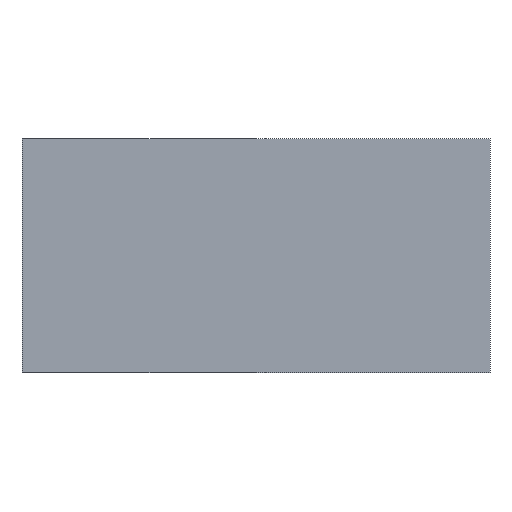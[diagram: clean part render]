
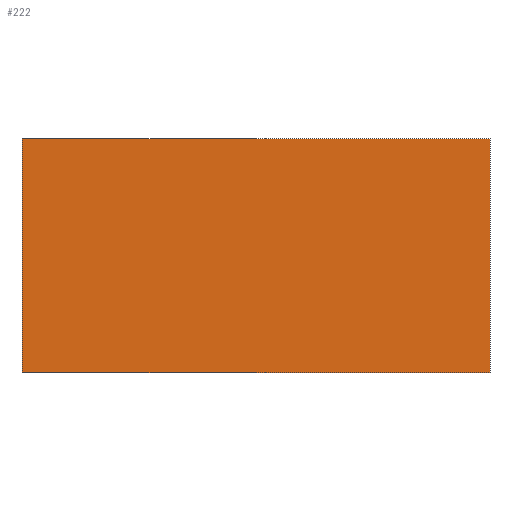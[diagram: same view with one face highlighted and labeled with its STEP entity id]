
A CAD part, front view. The second image highlights one B-rep face of the part: STEP entity #222.
In plain terms, the highlighted planar face has unit normal (0, -1, 0).
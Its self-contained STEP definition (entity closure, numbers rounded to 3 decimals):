
#8 = DIRECTION ( 'NONE',  ( 0., 0., 1. ) ) ;
#12 = VECTOR ( 'NONE', #220, 1000. ) ;
#24 = EDGE_CURVE ( 'NONE', #156, #46, #200, .T. ) ;
#32 = LINE ( 'NONE', #129, #12 ) ;
#34 = DIRECTION ( 'NONE',  ( 0., 1., 0. ) ) ;
#42 = VERTEX_POINT ( 'NONE', #161 ) ;
#46 = VERTEX_POINT ( 'NONE', #109 ) ;
#53 = CARTESIAN_POINT ( 'NONE',  ( 0., 0., 0. ) ) ;
#71 = PLANE ( 'NONE',  #193 ) ;
#83 = DIRECTION ( 'NONE',  ( 1., 0., 0. ) ) ;
#98 = VERTEX_POINT ( 'NONE', #158 ) ;
#103 = ORIENTED_EDGE ( 'NONE', *, *, #150, .F. ) ;
#105 = LINE ( 'NONE', #177, #139 ) ;
#109 = CARTESIAN_POINT ( 'NONE',  ( -41.983, 0., -7.155 ) ) ;
#111 = DIRECTION ( 'NONE',  ( 0., 0., 1. ) ) ;
#114 = EDGE_CURVE ( 'NONE', #46, #98, #105, .T. ) ;
#119 = ORIENTED_EDGE ( 'NONE', *, *, #24, .F. ) ;
#128 = DIRECTION ( 'NONE',  ( 0., 0., -1. ) ) ;
#129 = CARTESIAN_POINT ( 'NONE',  ( -41.983, 0., -17.155 ) ) ;
#131 = VECTOR ( 'NONE', #8, 1000. ) ;
#139 = VECTOR ( 'NONE', #83, 1000. ) ;
#147 = FACE_OUTER_BOUND ( 'NONE', #231, .T. ) ;
#150 = EDGE_CURVE ( 'NONE', #98, #42, #182, .T. ) ;
#154 = CARTESIAN_POINT ( 'NONE',  ( -41.983, 0., -17.155 ) ) ;
#156 = VERTEX_POINT ( 'NONE', #233 ) ;
#158 = CARTESIAN_POINT ( 'NONE',  ( -21.983, 0., -7.155 ) ) ;
#161 = CARTESIAN_POINT ( 'NONE',  ( -21.983, 0., -17.155 ) ) ;
#166 = EDGE_CURVE ( 'NONE', #42, #156, #32, .T. ) ;
#177 = CARTESIAN_POINT ( 'NONE',  ( -41.983, 0., -7.155 ) ) ;
#182 = LINE ( 'NONE', #234, #221 ) ;
#187 = ORIENTED_EDGE ( 'NONE', *, *, #114, .F. ) ;
#193 = AXIS2_PLACEMENT_3D ( 'NONE', #53, #34, #111 ) ;
#200 = LINE ( 'NONE', #154, #131 ) ;
#219 = ORIENTED_EDGE ( 'NONE', *, *, #166, .F. ) ;
#220 = DIRECTION ( 'NONE',  ( -1., 0., 0. ) ) ;
#221 = VECTOR ( 'NONE', #128, 1000. ) ;
#222 = ADVANCED_FACE ( 'NONE', ( #147 ), #71, .F. ) ;
#231 = EDGE_LOOP ( 'NONE', ( #119, #219, #103, #187 ) ) ;
#233 = CARTESIAN_POINT ( 'NONE',  ( -41.983, 0., -17.155 ) ) ;
#234 = CARTESIAN_POINT ( 'NONE',  ( -21.983, 0., -17.155 ) ) ;
